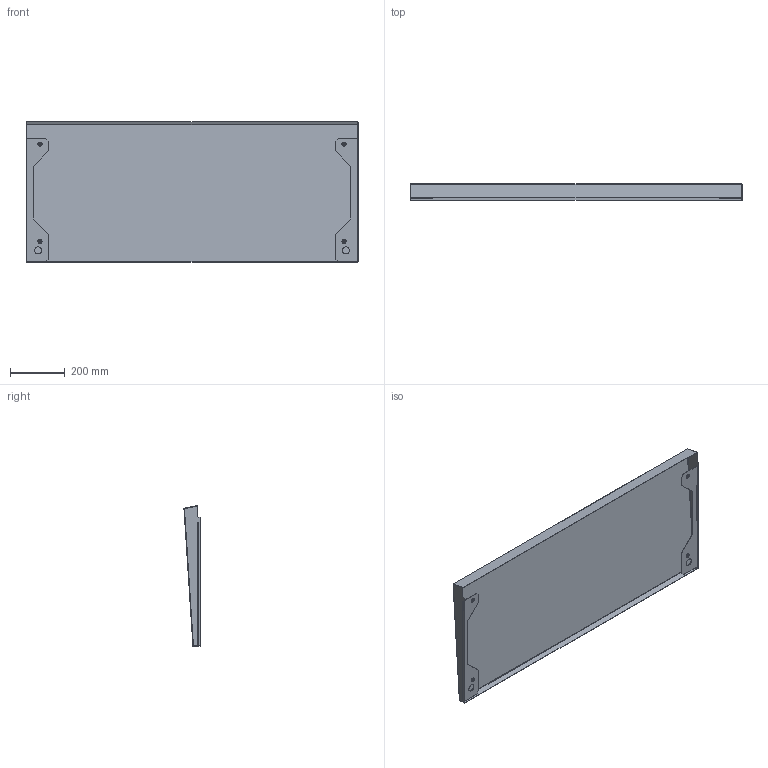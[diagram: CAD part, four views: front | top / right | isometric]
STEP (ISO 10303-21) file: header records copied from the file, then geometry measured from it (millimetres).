
FILE_DESCRIPTION (( 'STEP AP203' ), '1' );
FILE_NAME ('R 120.50 Cﾁ ﾊ鰀靍裲 鈞隆.STEP', '2012-11-21T04:29:04', ( 'system' ), ( '' ), 'SwSTEP 2.0', 'SolidWorks 2012', '' );
FILE_SCHEMA (( 'CONFIG_CONTROL_DESIGN' ));
Length unit declared in the file: millimetre
Products named in the file (1): R 120.50 Cﾁ ﾊ鰀靍裲 鈞隆
Bounding box: 1210 x 58.84 x 513.49 mm (x, y, z)
Volume: 1101468.7 mm3; surface area: 1579901.6 mm2
Topology: 5 solids, 5 shells, 152 faces, 354 edges, 224 vertices
Faces by surface type: cylinder 60, plane 60, torus 16, cone 8, sphere 8
Entity records: 4419 total; most frequent: DIRECTION 824, CARTESIAN_POINT 731, ORIENTED_EDGE 692, EDGE_CURVE 346, AXIS2_PLACEMENT_3D 329, VERTEX_POINT 220, EDGE_LOOP 188, CIRCLE 176
